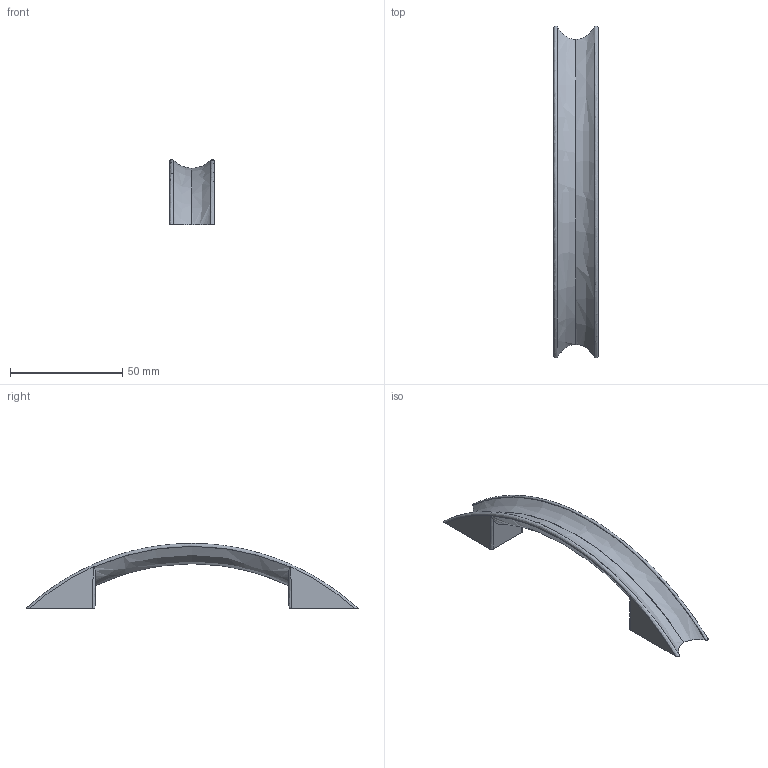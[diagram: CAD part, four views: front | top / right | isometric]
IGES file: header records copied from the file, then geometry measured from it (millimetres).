
Start section: C
Global section: file name: 8010-148.igs; native system: By Siemens PLM Incorporated; preprocessor: XPlus GENERIC/IGES 16.0.42; author: Author; organization: Title; date: 20231128.144254; units: millimetre
Bounding box: 20 x 148 x 29 mm (x, y, z)
Surface area: 10795.5 mm2 (no closed solid volume)
Topology: 0 solids, 0 shells, 46 faces, 374 edges, 372 vertices
Faces by surface type: bspline 46
